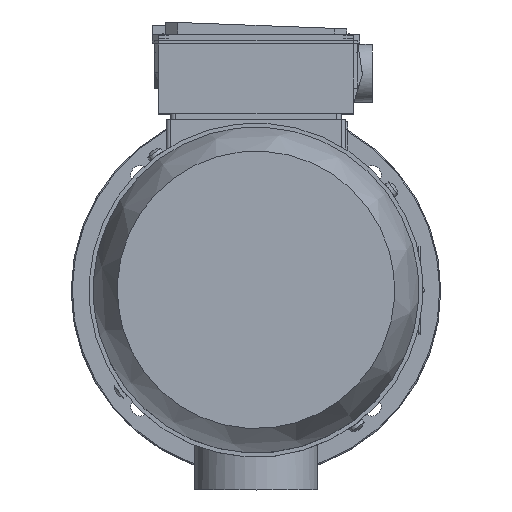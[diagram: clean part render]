
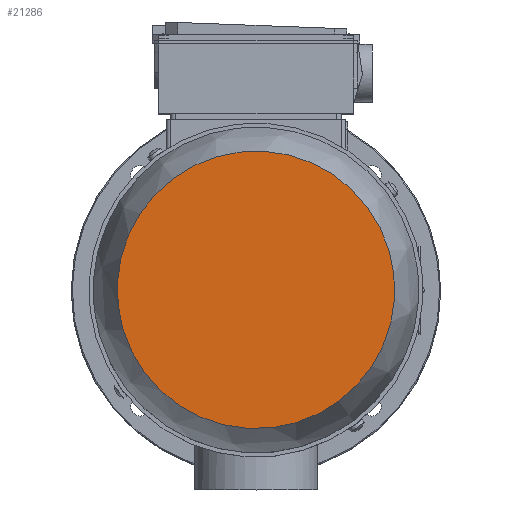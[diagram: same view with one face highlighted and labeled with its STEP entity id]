
A CAD part, top view. The second image highlights one B-rep face of the part: STEP entity #21286.
In plain terms, the highlighted planar face has unit normal (0, 0, 1).
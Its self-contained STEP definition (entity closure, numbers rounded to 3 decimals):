
#4898=FACE_OUTER_BOUND('',#6095,.T.);
#6095=EDGE_LOOP('',(#14014,#14015));
#7435=CIRCLE('',#22719,67.666);
#7436=CIRCLE('',#22720,67.666);
#8274=VERTEX_POINT('',#33816);
#8275=VERTEX_POINT('',#33817);
#10489=EDGE_CURVE('',#8274,#8275,#7435,.T.);
#10490=EDGE_CURVE('',#8275,#8274,#7436,.T.);
#14014=ORIENTED_EDGE('',*,*,#10489,.T.);
#14015=ORIENTED_EDGE('',*,*,#10490,.T.);
#19372=PLANE('',#22718);
#21286=ADVANCED_FACE('',(#4898),#19372,.T.);
#22718=AXIS2_PLACEMENT_3D('',#33815,#25101,#25102);
#22719=AXIS2_PLACEMENT_3D('',#33818,#25103,#25104);
#22720=AXIS2_PLACEMENT_3D('',#33819,#25105,#25106);
#25101=DIRECTION('center_axis',(0.,0.,
1.));
#25102=DIRECTION('ref_axis',(-0.803,-0.596,0.));
#25103=DIRECTION('center_axis',(0.,0.,
1.));
#25104=DIRECTION('ref_axis',(0.596,-0.803,0.));
#25105=DIRECTION('center_axis',(0.,0.,
1.));
#25106=DIRECTION('ref_axis',(0.596,-0.803,0.));
#33815=CARTESIAN_POINT('Origin',(0.,0.,
232.618));
#33816=CARTESIAN_POINT('',(-40.328,54.336,232.618));
#33817=CARTESIAN_POINT('',(54.336,40.328,232.618));
#33818=CARTESIAN_POINT('Origin',(0.,0.,
232.618));
#33819=CARTESIAN_POINT('Origin',(0.,0.,
232.618));
